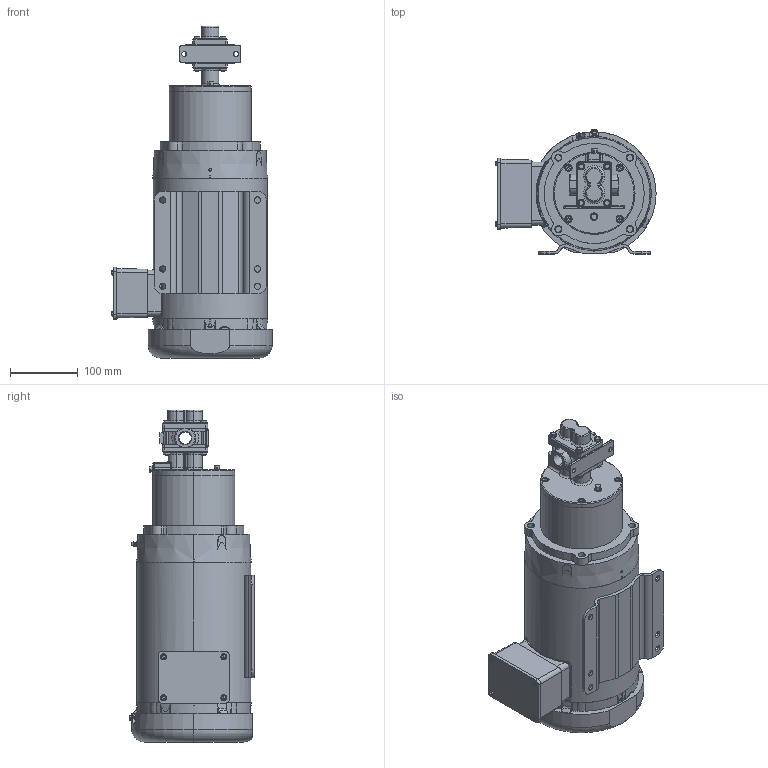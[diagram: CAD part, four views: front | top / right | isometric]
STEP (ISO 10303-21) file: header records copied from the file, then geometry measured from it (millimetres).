
FILE_DESCRIPTION (( 'STEP AP214' ), '1' );
FILE_NAME ('GMC4 FNPT 140TC MOTOR.STEP', '2025-08-29T12:57:24', ( '' ), ( '' ), 'SwSTEP 2.0', 'SolidWorks 2024', '' );
FILE_SCHEMA (( 'AUTOMOTIVE_DESIGN' ));
Length unit declared in the file: inch
Products named in the file (1): GMC4 FNPT 140TC MOTOR
Bounding box: 236.18 x 182.97 x 489.33 mm (x, y, z)
Volume: 7886541.1 mm3; surface area: 466351.4 mm2
Topology: 19 solids, 19 shells, 2224 faces, 5681 edges, 3647 vertices
Faces by surface type: plane 883, cylinder 860, cone 291, torus 73, bspline 69, sphere 48
Entity records: 98594 total; most frequent: CARTESIAN_POINT 44280, DIRECTION 11405, ORIENTED_EDGE 11298, EDGE_CURVE 5649, AXIS2_PLACEMENT_3D 4374, VERTEX_POINT 3647, LINE 2657, VECTOR 2657
